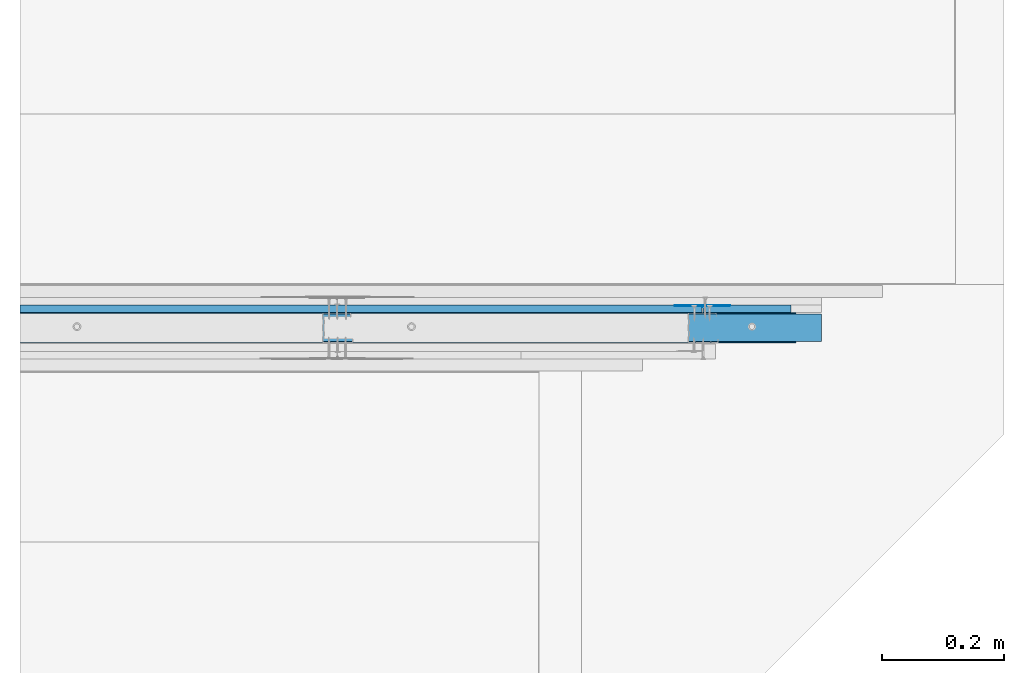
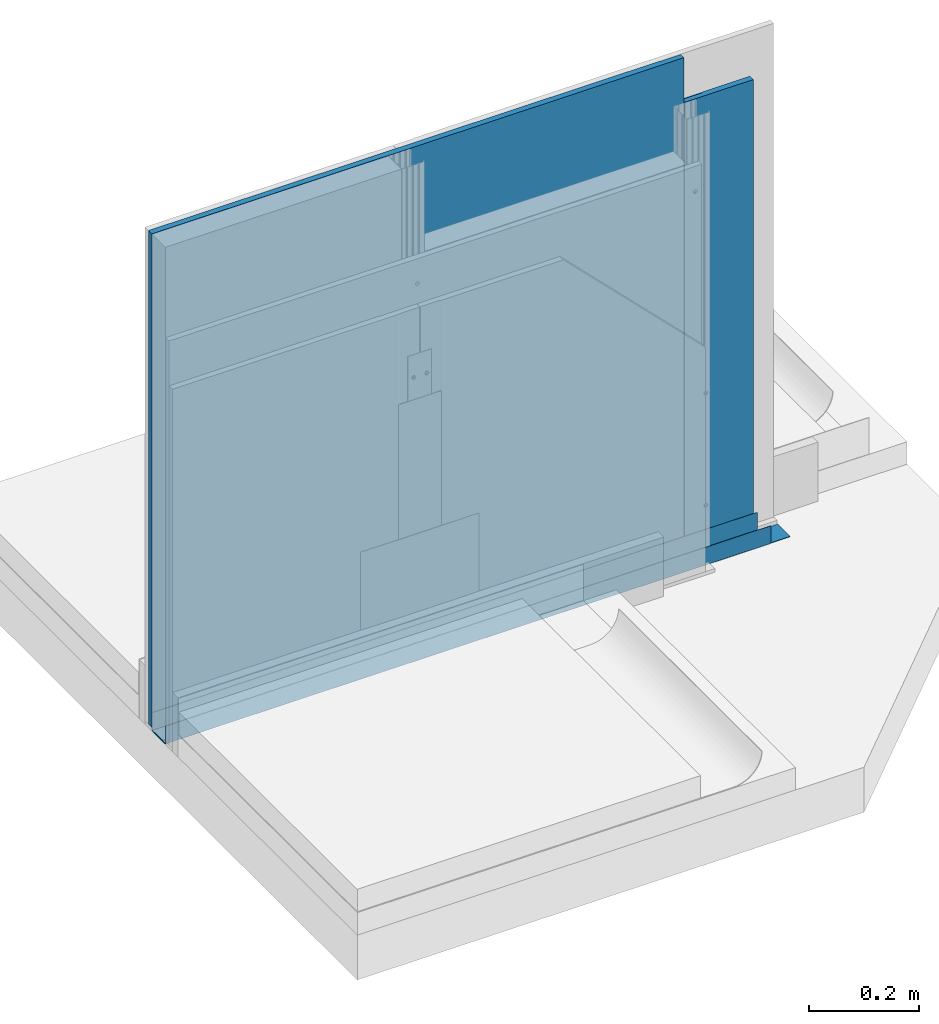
# One storey, part 3 of 37: 5 walls.
"""IFC2X3 building model written with IfcOpenShell, lengths in millimetres."""

import ifcopenshell
import ifcopenshell.guid

model = None  # the IFC model being written
_history = None  # IfcOwnerHistory: only IFC2X3 demands one
_inside = {}  # id of a spatial element -> (the spatial element, [elements in it])
_under = {}  # id of a project, library or spatial element -> (it, [spatial elements below it])
_declared = {}  # id of a project -> (the project, [libraries it declares])
_typed = {}  # id of a type object -> (the type object, [elements of that type])
_made_of = {}  # id of a material, layer set ... -> (it, [elements and type objects made of it])


def new_model(schema):
    """Start an empty IFC model of exactly this schema.

    Asked for "IFC4X3", IfcOpenShell would pick the latest addendum, in which some entities
    have other attributes; the version numbers below select the first issue.
    IFC2X3 requires an IfcOwnerHistory on every rooted entity: one is made here for all.
    """
    global model, _history
    if schema == "IFC4X3":
        model = ifcopenshell.file(schema_version=(4, 3, 0, 0))
    else:
        model = ifcopenshell.file(schema=schema)
    _inside.clear()
    _under.clear()
    _declared.clear()
    _typed.clear()
    _made_of.clear()
    _history = None
    if model.schema == "IFC2X3":
        org = make("IfcOrganization", Name="unknown")
        user = make(
            "IfcPersonAndOrganization",
            ThePerson=make("IfcPerson", FamilyName="unknown"),
            TheOrganization=org,
        )
        app = make(
            "IfcApplication",
            ApplicationDeveloper=org,
            Version="unknown",
            ApplicationFullName="unknown",
            ApplicationIdentifier="unknown",
        )
        _history = make(
            "IfcOwnerHistory",
            OwningUser=user,
            OwningApplication=app,
            ChangeAction="ADDED",
            CreationDate=0,
        )
    return model


def make(cls, **values):
    """One entity of the class cls with the attributes given. An attribute that is None is left unset."""
    return model.create_entity(
        cls, **{name: value for name, value in values.items() if value is not None}
    )


def entity(cls, *values):
    """Any entity or typed value of the class cls, its attributes in the order of the schema. None: left unset."""
    e = model.create_entity(cls)
    for i, value in enumerate(values):
        if value is not None:
            e[i] = value
    return e


def rooted(cls, **values):
    """An entity with a GlobalId (a new one), such as an element, a storey or a relation."""
    return make(cls, GlobalId=ifcopenshell.guid.new(), OwnerHistory=_history, **values)


def si_unit(unit_type, name, prefix=None):
    """IfcSIUnit, for example si_unit("LENGTHUNIT", "METRE", prefix="MILLI")."""
    return make("IfcSIUnit", UnitType=unit_type, Prefix=prefix, Name=name)


def converted_unit(unit_type, name, factor, base, dimensions=None, offset=None):
    """IfcConversionBasedUnit, such as the inch: factor (a typed value) times the base unit."""
    return make(
        "IfcConversionBasedUnit"
        if offset is None
        else "IfcConversionBasedUnitWithOffset",
        ConversionOffset=offset,
        Dimensions=None
        if dimensions is None
        else entity("IfcDimensionalExponents", *dimensions),
        UnitType=unit_type,
        Name=name,
        ConversionFactor=make(
            "IfcMeasureWithUnit", ValueComponent=factor, UnitComponent=base
        ),
    )


def assignment(units):
    """IfcUnitAssignment: the units of a project."""
    return None if units is None else make("IfcUnitAssignment", Units=units)


def point(xyz):
    """IfcCartesianPoint."""
    return None if xyz is None else make("IfcCartesianPoint", Coordinates=xyz)


def direction(xyz):
    """IfcDirection."""
    return None if xyz is None else make("IfcDirection", DirectionRatios=xyz)


def frame(location, z_axis=None, x_axis=None):
    """IfcAxis2Placement3D, a coordinate frame: its origin and axes. An axis left out is left unset."""
    return make(
        "IfcAxis2Placement3D",
        Location=point(location),
        Axis=direction(z_axis),
        RefDirection=direction(x_axis),
    )


def origin():
    """The frame at (0, 0, 0) with its axes left unset."""
    return frame((0.0, 0.0, 0.0))


def origin_with_axes():
    """The frame at (0, 0, 0) with the z axis (0, 0, 1) and the x axis (1, 0, 0) written out."""
    return frame((0.0, 0.0, 0.0), z_axis=(0.0, 0.0, 1.0), x_axis=(1.0, 0.0, 0.0))


def place(relative_to, where):
    """IfcLocalPlacement: puts the frame where relative to a parent placement (None: the world)."""
    return make(
        "IfcLocalPlacement", PlacementRelTo=relative_to, RelativePlacement=where
    )


def context(
    kind, dimensions, precision=None, world=None, true_north=None, identifier=None
):
    """IfcGeometricRepresentationContext, for example the 3D "Model" context."""
    return make(
        "IfcGeometricRepresentationContext",
        ContextIdentifier=identifier,
        ContextType=kind,
        CoordinateSpaceDimension=dimensions,
        Precision=precision,
        WorldCoordinateSystem=world,
        TrueNorth=true_north,
    )


def project(units=None, contexts=None):
    """IfcProject with its units and contexts."""
    return rooted(
        "IfcProject",
        Name="project",
        RepresentationContexts=contexts,
        UnitsInContext=assignment(units),
    )


def spatial(cls, under=None, at=None, **own):
    """A site, building, storey or space (cls), placed at a placement, below another one or the project."""
    s = rooted(cls, ObjectPlacement=at, **own)
    if under is not None:
        _under.setdefault(under.id(), (under, []))[1].append(s)
    return s


def faces_of(points, faces, orient=None, outer=None):
    """IfcFace entities. A face is a list of loops; a loop is a list of indices into points, from 0.

    orient and outer hold one flag for each loop. By default every Orientation is true, the
    first loop of a face is its IfcFaceOuterBound and the others are IfcFaceBound.
    """
    made = []
    for i, loops in enumerate(faces):
        bounds = []
        for j, loop in enumerate(loops):
            is_outer = j == 0 if outer is None else outer[i][j]
            bounds.append(
                make(
                    "IfcFaceOuterBound" if is_outer else "IfcFaceBound",
                    Bound=make("IfcPolyLoop", Polygon=[points[k] for k in loop]),
                    Orientation=True if orient is None else orient[i][j],
                )
            )
        made.append(make("IfcFace", Bounds=bounds))
    return made


def faceted_brep(points, faces, orient=None, outer=None, voids=None):
    """IfcFacetedBrep: a solid bounded by flat faces; with voids (closed shells), ...WithVoids."""
    shared = [point(p) for p in points]
    hull = make("IfcClosedShell", CfsFaces=faces_of(shared, faces, orient, outer))
    if voids is None:
        return make("IfcFacetedBrep", Outer=hull)
    return make(
        "IfcFacetedBrepWithVoids",
        Outer=hull,
        Voids=[
            make(cls, CfsFaces=faces_of(shared, fs, o, b)) for cls, fs, o, b in voids
        ],
    )


def shape(context_of_items, identifier, shape_type, items):
    """IfcShapeRepresentation: the items that make up one representation, for example the "Body"."""
    return make(
        "IfcShapeRepresentation",
        ContextOfItems=context_of_items,
        RepresentationIdentifier=identifier,
        RepresentationType=shape_type,
        Items=items,
    )


def made_of(thing, what):
    """Note that an element or type object is made of a material, layer set ...; save() writes the relation."""
    if what is not None:
        _made_of.setdefault(what.id(), (what, []))[1].append(thing)
    return thing


def element(
    cls,
    number,
    at=None,
    inside=None,
    cuts=None,
    type_object=None,
    material=None,
    context=None,
    identifier="Body",
    shape_type=None,
    held_by="IfcProductDefinitionShape",
    body=None,
    shapes=None,
    **own,
):
    """One element of the class cls, such as IfcWall. Its Tag is "e" and its number.

    at: its placement. inside: the storey or other place that contains it. cuts: it is an
    opening in that element (IfcRelVoidsElement). A single representation is given by context,
    identifier, shape_type and body (its items); several are given by shapes. held_by: the class
    of the entity that holds the representations. save() writes the other relations.
    """
    e = rooted(cls, Tag="e%d" % number, ObjectPlacement=at, **own)
    if body is not None:
        shapes = [shape(context, identifier, shape_type, body)]
    if shapes is not None:
        e.Representation = make(held_by, Representations=shapes)
    if inside is not None:
        _inside.setdefault(inside.id(), (inside, []))[1].append(e)
    if cuts is not None:
        rooted(
            "IfcRelVoidsElement", RelatingBuildingElement=cuts, RelatedOpeningElement=e
        )
    if type_object is not None:
        _typed.setdefault(type_object.id(), (type_object, []))[1].append(e)
    return made_of(e, material)


def aggregate(whole, parts):
    """IfcRelAggregates: a whole, such as a stair, and the parts it consists of."""
    return rooted("IfcRelAggregates", RelatingObject=whole, RelatedObjects=parts)


def save(model, path):
    """Write the relations noted so far, then the file.

    IfcRelAggregates (storeys below a building ...), IfcRelContainedInSpatialStructure (elements
    in a storey), IfcRelDefinesByType, IfcRelAssociatesMaterial and IfcRelDeclares: one each for
    every whole, place, type object, material and project.
    """
    for whole, parts in _under.values():
        aggregate(whole, parts)
    for where, things in _inside.values():
        rooted(
            "IfcRelContainedInSpatialStructure",
            RelatedElements=things,
            RelatingStructure=where,
        )
    for kind, things in _typed.values():
        rooted("IfcRelDefinesByType", RelatedObjects=things, RelatingType=kind)
    for what, things in _made_of.values():
        rooted("IfcRelAssociatesMaterial", RelatedObjects=things, RelatingMaterial=what)
    for by, libraries in _declared.values():
        rooted("IfcRelDeclares", RelatingContext=by, RelatedDefinitions=libraries)
    model.write(path)


model = new_model("IFC2X3")

# Units and contexts
model_context = context("Model", 3, precision=1e-05, world=origin(), true_north=direction((0.0, 1.0, 0.0)))
ifc_project = project(units=[si_unit("LENGTHUNIT", "METRE", prefix="MILLI"), si_unit("AREAUNIT", "SQUARE_METRE"), si_unit("VOLUMEUNIT", "CUBIC_METRE"), converted_unit("PLANEANGLEUNIT", "DEGREE", entity("IfcPlaneAngleMeasure", 0.01745), si_unit("PLANEANGLEUNIT", "RADIAN"), dimensions=[0, 0, 0, 0, 0, 0, 0]), si_unit("SOLIDANGLEUNIT", "STERADIAN"), si_unit("MASSUNIT", "GRAM"), si_unit("TIMEUNIT", "SECOND"), si_unit("THERMODYNAMICTEMPERATUREUNIT", "DEGREE_CELSIUS"), si_unit("LUMINOUSINTENSITYUNIT", "LUMEN")], contexts=[model_context])

# Site, building, storey
site_placement = place(None, origin_with_axes())
site = spatial("IfcSite", under=ifc_project, at=site_placement, Name="Default Site", CompositionType="ELEMENT")
building_placement = place(site_placement, origin_with_axes())
building = spatial("IfcBuilding", under=site, at=building_placement, Name="Default Building", CompositionType="ELEMENT")
storey_placement = place(building_placement, origin_with_axes())
storey = spatial("IfcBuildingStorey", under=building, at=storey_placement, Name="Default Building Storey", CompositionType="ELEMENT", Elevation=0.0)

# Walls
wall_1_placement = place(storey_placement, frame((3984.303078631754, -1356.465798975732, 303.1766678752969), z_axis=(0.0, 0.0, 1.0), x_axis=(1.0, 0.0, 0.0)))
element("IfcWall", 1, at=wall_1_placement, inside=storey, Name="Dedykowana masa szpachlowa Rigips - konstrukcyjna", context=model_context, shape_type="Brep", body=[
    faceted_brep([(-737.4838396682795, 3387.669590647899, 706.8233321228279), (-737.4592163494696, 3387.356721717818, 706.8233321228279), (-737.4345930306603, 3387.669590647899, 706.8233321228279), (-737.3613293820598, 3387.974755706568, 706.8233321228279), (-737.2412293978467, 3388.264702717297, 706.8233321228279), (-737.0772503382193, 3388.532292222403, 706.8233321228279), (-736.8734299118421, 3388.770935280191, 706.8233321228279), (-736.6347868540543, 3388.974755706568, 706.8233321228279), (-736.3671973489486, 3389.138734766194, 706.8233321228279), (-736.0772503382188, 3389.258834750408, 706.8233321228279), (-735.7720852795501, 3389.332098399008, 706.8233321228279), (-735.4592163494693, 3389.356721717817, 706.8233321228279), (-692.4592163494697, 3389.356721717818, 706.8233321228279), (-691.4592163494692, 3390.556721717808, 706.8233321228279), (-782.4592163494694, 3390.556721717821, 706.8233321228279), (-782.4592163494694, 3389.356721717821, 706.8233321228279), (-739.4592163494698, 3389.356721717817, 706.8233321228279), (-739.146347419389, 3389.332098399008, 706.8233321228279), (-738.8411823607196, 3389.258834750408, 706.8233321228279), (-738.5512353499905, 3389.138734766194, 706.8233321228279), (-738.2836458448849, 3388.974755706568, 706.8233321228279), (-738.045002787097, 3388.770935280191, 706.8233321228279), (-737.8411823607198, 3388.532292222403, 706.8233321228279), (-737.6772033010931, 3388.264702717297, 706.8233321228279), (-737.5571033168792, 3387.974755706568, 706.8233321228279), (-691.4592163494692, 3390.556721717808, -293.178249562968), (-692.4592163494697, 3389.356721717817, -293.178249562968), (-735.4592163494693, 3389.356721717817, -293.178249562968), (-735.7720852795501, 3389.332098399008, -293.178249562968), (-736.0772503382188, 3389.258834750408, -293.178249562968), (-736.3671973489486, 3389.138734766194, -293.178249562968), (-736.6347868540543, 3388.974755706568, -293.178249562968), (-736.8734299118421, 3388.77093528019, -293.178249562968), (-737.0772503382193, 3388.532292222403, -293.178249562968), (-737.2412293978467, 3388.264702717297, -293.178249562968), (-737.3613293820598, 3387.974755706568, -293.178249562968), (-737.4345930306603, 3387.669590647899, -293.178249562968), (-737.4592163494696, 3387.356721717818, -293.178249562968), (-737.4838396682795, 3387.669590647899, -293.178249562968), (-737.5571033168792, 3387.974755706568, -293.178249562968), (-737.6772033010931, 3388.264702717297, -293.178249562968), (-737.8411823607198, 3388.532292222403, -293.178249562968), (-738.045002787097, 3388.77093528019, -293.178249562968), (-738.2836458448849, 3388.974755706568, -293.178249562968), (-738.5512353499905, 3389.138734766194, -293.178249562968), (-738.8411823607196, 3389.258834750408, -293.178249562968), (-739.146347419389, 3389.332098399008, -293.178249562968), (-739.4592163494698, 3389.356721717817, -293.178249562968), (-782.4592163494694, 3389.356721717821, -293.178249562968), (-782.4592163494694, 3390.556721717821, -293.178249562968)], [[[0, 1, 2, 3, 4, 5, 6, 7, 8, 9, 10, 11, 12, 13, 14, 15, 16, 17, 18, 19, 20, 21, 22, 23, 24]], [[25, 26, 27, 28, 29, 30, 31, 32, 33, 34, 35, 36, 37, 38, 39, 40, 41, 42, 43, 44, 45, 46, 47, 48, 49]], [[26, 12, 11, 27]], [[10, 9, 29, 28]], [[28, 27, 11, 10]], [[8, 30, 29, 9]], [[7, 6, 32, 31]], [[31, 30, 8, 7]], [[5, 4, 34, 33]], [[33, 32, 6, 5]], [[3, 35, 34, 4]], [[2, 1, 37, 36]], [[36, 35, 3, 2]], [[0, 24, 39, 38]], [[38, 37, 1, 0]], [[23, 40, 39, 24]], [[22, 21, 42, 41]], [[41, 40, 23, 22]], [[20, 19, 44, 43]], [[43, 42, 21, 20]], [[18, 45, 44, 19]], [[17, 16, 47, 46]], [[46, 45, 18, 17]], [[47, 16, 15, 48]], [[48, 15, 14, 49]], [[49, 14, 13, 25]], [[25, 13, 12, 26]]]),
])
wall_2_placement = place(storey_placement, frame((3247.843862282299, 2022.140922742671, 1287.777728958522), z_axis=(0.0, 0.0, 1.0), x_axis=(1.0, 0.0, 0.0)))
element("IfcWall", 2, at=wall_2_placement, inside=storey, Name="Płyta gipsowo-kartonowa RIGIPS PRO (4PRO™)", context=model_context, shape_type="Brep", body=[
    faceted_brep([(145.1967559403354, 12.49999999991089, -277.7777289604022), (145.1967559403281, -9.059988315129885e-11, -277.7777289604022), (145.1967559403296, -9.023892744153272e-11, -1277.779310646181), (145.1967559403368, 12.49999999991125, -1277.779310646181), (0.0, 0.0, -277.7777289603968), (44.99999999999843, 12.50000000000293, -277.7777289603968), (40.99999999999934, 11.50000000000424, -277.7777289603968), (0.9999999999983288, 11.5000000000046, -277.7777289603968), (0.7411809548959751, 11.46592582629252, -277.7777289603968), (0.4999999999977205, 11.3660254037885, -277.7777289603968), (0.2928932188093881, 11.20710678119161, -277.7777289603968), (0.1339745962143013, 11.00000000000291, -277.7777289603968), (0.03407417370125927, 10.7588190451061, -277.7777289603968), (-2.887645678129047e-12, 10.50000000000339, -277.7777289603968), (44.99999999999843, 12.50000000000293, -1277.779310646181), (40.99999999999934, 11.50000000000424, -1277.779310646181), (0.9999999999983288, 11.5000000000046, -1277.779310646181), (0.7411809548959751, 11.46592582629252, -1277.779310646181), (0.4999999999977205, 11.3660254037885, -1277.779310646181), (0.2928932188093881, 11.20710678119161, -1277.779310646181), (0.1339745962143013, 11.00000000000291, -1277.779310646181), (0.03407417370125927, 10.7588190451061, -1277.779310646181), (-2.887645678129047e-12, 10.50000000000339, -1277.779310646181), (0.0, 0.0, -1277.779310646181)], [[[0, 1, 2, 3]], [[4, 1, 0, 5, 6, 7, 8, 9, 10, 11, 12, 13]], [[0, 3, 14, 5]], [[6, 5, 14, 15]], [[7, 6, 15, 16]], [[8, 7, 16, 17]], [[9, 8, 17, 18]], [[10, 9, 18, 19]], [[11, 10, 19, 20]], [[12, 11, 20, 21]], [[13, 12, 21, 22]], [[4, 13, 22, 23]], [[23, 2, 1, 4]], [[14, 3, 2, 23, 22, 21, 20, 19, 18, 17, 16, 15]]]),
])
wall_3_placement = place(storey_placement, frame((3207.215400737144, 5452.424146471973, 8.39039522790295), z_axis=(6.446348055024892e-14, -6.858158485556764e-13, 1.0), x_axis=(1.0, -1.14833748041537e-16, -9.00774876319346e-14)))
element("IfcWall", 3, at=wall_3_placement, inside=storey, Name="Profil RIGIPS UW50 ULTRASTIL®", context=model_context, shape_type="Brep", body=[
    faceted_brep([(-943.956929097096, -3470.476261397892, -4.901701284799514), (-943.956929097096, -3470.287116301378, -4.783410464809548), (-943.956929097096, -3470.128902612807, -4.626130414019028), (-1082.190267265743, -3470.128902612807, -4.626130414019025), (-1082.190267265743, -3470.476261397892, -4.901701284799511), (-943.956929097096, -3470.063927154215, -4.535249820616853), (-943.956929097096, -3470.009494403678, -4.437688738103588), (-1082.190267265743, -3470.009494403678, -4.437688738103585), (-943.956929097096, -3440.279331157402, -4.783410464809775), (-943.956929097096, -3440.090186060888, -4.901701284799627), (-943.956929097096, -3439.87952304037, -4.97511570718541), (-1082.190267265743, -3439.87952304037, -4.975115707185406), (-1082.190267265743, -3440.279331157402, -4.783410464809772), (-943.9569290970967, -3440.819375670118, -2.866589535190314), (-943.9569290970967, -3441.008520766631, -2.748298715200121), (-943.9569290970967, -3441.219183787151, -2.674884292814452), (-1082.190267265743, -3441.219183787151, -2.67488429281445), (-1082.190267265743, -3440.819375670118, -2.866589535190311), (-943.9569290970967, -3469.55792669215, -2.74829871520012), (-943.9569290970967, -3469.747071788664, -2.866589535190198), (-943.9569290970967, -3469.905285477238, -3.023869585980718), (-1082.190267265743, -3469.905285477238, -3.023869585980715), (-1082.190267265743, -3469.55792669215, -2.748298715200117), (-1082.190267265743, -3479.733223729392, 35.00000000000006), (-1082.190267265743, -3480.283223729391, 35.00000000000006), (-1082.190267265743, -3480.283223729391, -4.199999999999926), (-1082.190267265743, -3480.273374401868, -4.325147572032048), (-1082.190267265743, -3480.244068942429, -4.447213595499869), (-1082.190267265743, -3480.196028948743, -4.563192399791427), (-1082.190267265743, -3480.130437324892, -4.670228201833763), (-1082.190267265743, -3480.048909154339, -4.765685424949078), (-1082.190267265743, -3479.953451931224, -4.847213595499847), (-1082.190267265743, -3479.846416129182, -4.912805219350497), (-1082.190267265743, -3479.73043732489, -4.960845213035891), (-1082.190267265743, -3479.608371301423, -4.99015067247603), (-1082.190267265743, -3479.483223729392, -4.999999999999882), (-1082.190267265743, -3470.908620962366, -4.999999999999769), (-1082.190267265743, -3470.686924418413, -4.975115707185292), (-1082.190267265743, -3469.680725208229, -3.762311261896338), (-1082.190267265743, -3469.561316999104, -3.573869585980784), (-1082.190267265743, -3469.403103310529, -3.416589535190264), (-1082.190267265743, -3469.213958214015, -3.298298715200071), (-1082.190267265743, -3469.003295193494, -3.224884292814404), (-1082.190267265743, -3468.781598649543, -3.199999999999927), (-1082.190267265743, -3441.78484880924, -3.199999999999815), (-1082.190267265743, -3441.563152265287, -3.224884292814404), (-1082.190267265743, -3441.352489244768, -3.298298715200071), (-1082.190267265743, -3441.163344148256, -3.416589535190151), (-1082.190267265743, -3441.005130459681, -3.573869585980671), (-1082.190267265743, -3440.885722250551, -3.762311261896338), (-1082.190267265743, -3440.556953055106, -4.437688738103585), (-1082.190267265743, -3440.437544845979, -4.626130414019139), (-1082.190267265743, -3439.657826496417, -4.999999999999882), (-1082.190267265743, -3431.083223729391, -4.999999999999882), (-1082.190267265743, -3430.95807615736, -4.990150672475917), (-1082.190267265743, -3430.83601013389, -4.960845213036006), (-1082.190267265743, -3430.720031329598, -4.912805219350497), (-1082.190267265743, -3430.612995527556, -4.847213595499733), (-1082.190267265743, -3430.51753830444, -4.765685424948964), (-1082.190267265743, -3430.436010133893, -4.670228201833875), (-1082.190267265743, -3430.370418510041, -4.563192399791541), (-1082.190267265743, -3430.322378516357, -4.447213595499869), (-1082.190267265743, -3430.293073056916, -4.325147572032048), (-1082.190267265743, -3430.283223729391, -4.199999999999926), (-1082.190267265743, -3430.283223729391, 35.00000000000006), (-1082.190267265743, -3430.833223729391, 35.00000000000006), (-1082.190267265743, -3430.833223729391, -4.199999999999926), (-1082.190267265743, -3430.836301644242, -4.23910861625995), (-1082.190267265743, -3430.845459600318, -4.27725424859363), (-1082.190267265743, -3430.860472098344, -4.313497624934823), (-1082.190267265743, -3430.880969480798, -4.346946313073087), (-1082.190267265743, -3430.906447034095, -4.376776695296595), (-1082.190267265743, -3430.936277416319, -4.402254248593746), (-1082.190267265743, -3430.969726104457, -4.422751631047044), (-1082.190267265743, -3431.005969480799, -4.437764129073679), (-1082.190267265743, -3431.044115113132, -4.44692208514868), (-1082.190267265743, -3431.083223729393, -4.449999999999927), (-1082.190267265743, -3439.313858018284, -4.45000000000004), (-1082.190267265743, -3439.535554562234, -4.425115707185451), (-1082.190267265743, -3439.746217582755, -4.351701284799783), (-1082.190267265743, -3439.935362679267, -4.233410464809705), (-1082.190267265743, -3440.093576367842, -4.076130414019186), (-1082.190267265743, -3440.212984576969, -3.887688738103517), (-1082.190267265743, -3440.541753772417, -3.212311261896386), (-1082.190267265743, -3440.661161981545, -3.02386958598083), (-1082.190267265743, -3441.440880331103, -2.649999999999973), (-1082.190267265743, -3469.125567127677, -2.649999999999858), (-1082.190267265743, -3469.347263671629, -2.674884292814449), (-1082.190267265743, -3470.024693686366, -3.212311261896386), (-1082.190267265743, -3470.353462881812, -3.887688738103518), (-1082.190267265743, -3470.472871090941, -4.076130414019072), (-1082.190267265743, -3470.631084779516, -4.233410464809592), (-1082.190267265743, -3470.820229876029, -4.351701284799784), (-1082.190267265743, -3471.030892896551, -4.425115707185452), (-1082.190267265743, -3471.252589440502, -4.449999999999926), (-1082.190267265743, -3479.483223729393, -4.449999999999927), (-1082.190267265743, -3479.522332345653, -4.446922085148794), (-1082.190267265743, -3479.560477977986, -4.437764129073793), (-1082.190267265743, -3479.596721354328, -4.422751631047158), (-1082.190267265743, -3479.630170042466, -4.402254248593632), (-1082.190267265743, -3479.660000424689, -4.376776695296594), (-1082.190267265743, -3479.685477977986, -4.346946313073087), (-1082.190267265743, -3479.705975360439, -4.313497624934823), (-1082.190267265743, -3479.720987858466, -4.27725424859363), (-1082.190267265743, -3479.730145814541, -4.23910861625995), (-1082.190267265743, -3479.733223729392, -4.199999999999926), (193.5273232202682, -3480.283223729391, -4.200000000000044), (193.5273232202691, -3480.283223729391, 35.0), (193.5273232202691, -3479.733223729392, 35.0), (193.5273232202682, -3479.733223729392, -4.200000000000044), (193.5273232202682, -3479.730145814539, -4.239108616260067), (193.5273232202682, -3479.720987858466, -4.277254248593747), (193.5273232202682, -3479.705975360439, -4.313497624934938), (193.5273232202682, -3479.685477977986, -4.346946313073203), (193.5273232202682, -3479.660000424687, -4.376776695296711), (193.5273232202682, -3479.630170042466, -4.402254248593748), (193.5273232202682, -3479.596721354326, -4.422751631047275), (193.5273232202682, -3479.560477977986, -4.43776412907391), (193.5273232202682, -3479.522332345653, -4.446922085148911), (193.5273232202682, -3479.483223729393, -4.450000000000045), (193.5273232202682, -3471.252589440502, -4.450000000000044), (193.5273232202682, -3471.030892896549, -4.425115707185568), (193.5273232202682, -3470.820229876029, -4.3517012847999), (193.5273232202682, -3470.631084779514, -4.233410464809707), (193.5273232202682, -3470.472871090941, -4.076130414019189), (193.5273232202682, -3470.353462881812, -3.887688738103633), (193.5273232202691, -3470.024693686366, -3.212311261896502), (193.5273232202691, -3469.905285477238, -3.023869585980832), (193.5273232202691, -3469.747071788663, -2.866589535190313), (193.5273232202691, -3469.55792669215, -2.748298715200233), (193.5273232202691, -3469.347263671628, -2.674884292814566), (193.5273232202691, -3469.125567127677, -2.649999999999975), (193.5273232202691, -3441.440880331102, -2.650000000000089), (193.5273232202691, -3441.219183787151, -2.674884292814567), (193.5273232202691, -3441.008520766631, -2.748298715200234), (193.5273232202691, -3440.819375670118, -2.866589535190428), (193.5273232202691, -3440.661161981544, -3.023869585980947), (193.5273232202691, -3440.541753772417, -3.212311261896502), (193.5273232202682, -3440.212984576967, -3.887688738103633), (193.5273232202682, -3440.093576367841, -4.076130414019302), (193.5273232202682, -3439.935362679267, -4.233410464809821), (193.5273232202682, -3439.746217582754, -4.3517012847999), (193.5273232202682, -3439.535554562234, -4.425115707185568), (193.5273232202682, -3439.313858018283, -4.450000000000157), (193.5273232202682, -3431.083223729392, -4.450000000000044), (193.5273232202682, -3431.044115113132, -4.446922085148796), (193.5273232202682, -3431.005969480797, -4.437764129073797), (193.5273232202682, -3430.969726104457, -4.422751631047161), (193.5273232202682, -3430.936277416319, -4.402254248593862), (193.5273232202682, -3430.906447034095, -4.376776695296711), (193.5273232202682, -3430.880969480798, -4.346946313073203), (193.5273232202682, -3430.860472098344, -4.313497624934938), (193.5273232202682, -3430.845459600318, -4.277254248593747), (193.5273232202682, -3430.836301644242, -4.239108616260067), (193.5273232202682, -3430.833223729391, -4.200000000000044), (193.5273232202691, -3430.833223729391, 35.0), (193.5273232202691, -3430.283223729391, 35.0), (193.5273232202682, -3430.283223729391, -4.200000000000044), (193.5273232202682, -3430.293073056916, -4.325147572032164), (193.5273232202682, -3430.322378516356, -4.447213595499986), (193.5273232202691, -3430.370418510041, -4.563192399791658), (193.5273232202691, -3430.436010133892, -4.670228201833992), (193.5273232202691, -3430.51753830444, -4.765685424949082), (193.5273232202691, -3430.612995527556, -4.84721359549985), (193.5273232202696, -3430.720031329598, -4.912805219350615), (193.5273232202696, -3430.83601013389, -4.960845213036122), (193.5273232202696, -3430.958076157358, -4.990150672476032), (193.5273232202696, -3431.083223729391, -4.999999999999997), (193.5273232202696, -3439.657826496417, -4.999999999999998), (193.5273232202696, -3439.879523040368, -4.975115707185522), (193.5273232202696, -3440.090186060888, -4.901701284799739), (193.5273232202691, -3440.279331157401, -4.783410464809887), (193.5273232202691, -3440.437544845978, -4.626130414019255), (193.5273232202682, -3440.556953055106, -4.437688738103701), (193.5273232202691, -3440.88572225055, -3.762311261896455), (193.5273232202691, -3441.005130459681, -3.573869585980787), (193.5273232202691, -3441.163344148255, -3.416589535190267), (193.5273232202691, -3441.352489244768, -3.298298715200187), (193.5273232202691, -3441.563152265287, -3.22488429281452), (193.5273232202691, -3441.78484880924, -3.199999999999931), (193.5273232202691, -3468.781598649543, -3.200000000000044), (193.5273232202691, -3469.003295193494, -3.22488429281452), (193.5273232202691, -3469.213958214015, -3.298298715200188), (193.5273232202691, -3469.403103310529, -3.416589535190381), (193.5273232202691, -3469.561316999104, -3.5738695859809), (193.5273232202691, -3469.680725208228, -3.762311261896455), (193.5273232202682, -3470.009494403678, -4.437688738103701), (193.5273232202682, -3470.063927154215, -4.535249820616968), (193.5273232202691, -3470.128902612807, -4.626130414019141), (193.5273232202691, -3470.287116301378, -4.783410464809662), (193.5273232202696, -3470.476261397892, -4.901701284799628), (193.5273232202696, -3470.686924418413, -4.975115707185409), (193.5273232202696, -3470.908620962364, -4.999999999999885), (193.5273232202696, -3479.483223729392, -4.999999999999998), (193.5273232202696, -3479.608371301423, -4.990150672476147), (193.5273232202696, -3479.730437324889, -4.960845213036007), (193.5273232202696, -3479.846416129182, -4.912805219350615), (193.5273232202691, -3479.953451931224, -4.847213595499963), (193.5273232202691, -3480.048909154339, -4.765685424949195), (193.5273232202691, -3480.130437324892, -4.670228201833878), (193.5273232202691, -3480.196028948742, -4.563192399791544), (193.5273232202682, -3480.244068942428, -4.447213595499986), (193.5273232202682, -3480.273374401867, -4.325147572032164)], [[[0, 1, 2, 3, 4]], [[2, 5, 6, 7, 3]], [[8, 9, 10, 11, 12]], [[13, 14, 15, 16, 17]], [[18, 19, 20, 21, 22]], [[23, 24, 25, 26, 27, 28, 29, 30, 31, 32, 33, 34, 35, 36, 37, 4, 3, 7, 38, 39, 40, 41, 42, 43, 44, 45, 46, 47, 48, 49, 50, 51, 12, 11, 52, 53, 54, 55, 56, 57, 58, 59, 60, 61, 62, 63, 64, 65, 66, 67, 68, 69, 70, 71, 72, 73, 74, 75, 76, 77, 78, 79, 80, 81, 82, 83, 84, 17, 16, 85, 86, 87, 22, 21, 88, 89, 90, 91, 92, 93, 94, 95, 96, 97, 98, 99, 100, 101, 102, 103, 104, 105]], [[106, 107, 108, 109, 110, 111, 112, 113, 114, 115, 116, 117, 118, 119, 120, 121, 122, 123, 124, 125, 126, 127, 128, 129, 130, 131, 132, 133, 134, 135, 136, 137, 138, 139, 140, 141, 142, 143, 144, 145, 146, 147, 148, 149, 150, 151, 152, 153, 154, 155, 156, 157, 158, 159, 160, 161, 162, 163, 164, 165, 166, 167, 168, 169, 170, 171, 172, 173, 174, 175, 176, 177, 178, 179, 180, 181, 182, 183, 184, 185, 186, 187, 188, 189, 190, 191, 192, 193, 194, 195, 196, 197, 198, 199, 200, 201, 202]], [[63, 157, 156, 64]], [[64, 156, 155, 65]], [[65, 155, 154, 66]], [[144, 76, 75, 145]], [[74, 146, 145, 75]], [[73, 147, 146, 74]], [[147, 73, 72, 148]], [[71, 149, 148, 72]], [[149, 71, 70, 150]], [[69, 151, 150, 70]], [[68, 152, 151, 69]], [[152, 68, 67, 153]], [[66, 154, 153, 67]], [[76, 144, 143, 77]], [[81, 139, 138, 82]], [[80, 140, 139, 81]], [[79, 141, 140, 80]], [[143, 142, 78, 77]], [[78, 142, 141, 79]], [[82, 138, 137, 83]], [[15, 133, 132, 85, 16]], [[14, 134, 133, 15]], [[13, 135, 134, 14]], [[84, 136, 135, 13, 17]], [[137, 136, 84, 83]], [[85, 132, 131, 86]], [[20, 127, 126, 88, 21]], [[19, 128, 127, 20]], [[18, 129, 128, 19]], [[87, 130, 129, 18, 22]], [[131, 130, 87, 86]], [[88, 126, 125, 89]], [[93, 121, 120, 94]], [[92, 122, 121, 93]], [[91, 123, 122, 92]], [[125, 124, 90, 89]], [[90, 124, 123, 91]], [[94, 120, 119, 95]], [[109, 105, 104, 110]], [[103, 111, 110, 104]], [[102, 112, 111, 103]], [[112, 102, 101, 113]], [[100, 114, 113, 101]], [[114, 100, 99, 115]], [[98, 116, 115, 99]], [[97, 117, 116, 98]], [[117, 97, 96, 118]], [[95, 119, 118, 96]], [[105, 109, 108, 23]], [[23, 108, 107, 24]], [[24, 107, 106, 25]], [[33, 195, 194, 34]], [[194, 193, 35, 34]], [[32, 196, 195, 33]], [[30, 198, 197, 31]], [[197, 196, 32, 31]], [[28, 200, 199, 29]], [[199, 198, 30, 29]], [[27, 201, 200, 28]], [[25, 106, 202, 26]], [[202, 201, 27, 26]], [[35, 193, 192, 36]], [[5, 2, 188, 187]], [[187, 186, 6, 5]], [[1, 189, 188, 2]], [[0, 190, 189, 1]], [[37, 191, 190, 0, 4]], [[192, 191, 37, 36]], [[6, 186, 185, 38, 7]], [[42, 181, 180, 43]], [[41, 182, 181, 42]], [[40, 183, 182, 41]], [[185, 184, 39, 38]], [[39, 184, 183, 40]], [[43, 180, 179, 44]], [[48, 175, 174, 49]], [[47, 176, 175, 48]], [[46, 177, 176, 47]], [[179, 178, 45, 44]], [[45, 178, 177, 46]], [[49, 174, 173, 50]], [[10, 169, 168, 52, 11]], [[9, 170, 169, 10]], [[8, 171, 170, 9]], [[51, 172, 171, 8, 12]], [[173, 172, 51, 50]], [[52, 168, 167, 53]], [[61, 159, 158, 62]], [[158, 157, 63, 62]], [[60, 160, 159, 61]], [[58, 162, 161, 59]], [[161, 160, 60, 59]], [[56, 164, 163, 57]], [[163, 162, 58, 57]], [[55, 165, 164, 56]], [[53, 167, 166, 54]], [[166, 165, 55, 54]]]),
])
wall_4_placement = place(storey_placement, frame((3246.843862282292, 2022.140922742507, 1415.55545791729), z_axis=(0.0, 0.0, 1.0), x_axis=(-1.0, -8.049116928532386e-16, 0.0)))
element("IfcWall", 4, at=wall_4_placement, inside=storey, Name="Płyta gipsowo-kartonowa RIGIPS PRO (4PRO™)", context=model_context, shape_type="Brep", body=[
    faceted_brep([(1121.818728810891, -12.50000000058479, -305.5554579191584), (1121.818728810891, 3.609557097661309e-13, -305.5554579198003), (1121.818728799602, -3.495134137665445e-09, -1405.557039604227), (1121.818728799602, -12.50000000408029, -1405.557039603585), (44.99999999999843, -12.50000000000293, -305.5554579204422), (44.99999999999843, -12.50000000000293, -1405.557039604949), (40.99999999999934, -11.50000000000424, -305.5554579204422), (40.99999999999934, -11.50000000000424, -1405.557039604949), (0.9999999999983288, -11.5000000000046, -305.5554579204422), (0.9999999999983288, -11.5000000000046, -1405.557039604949), (0.7411809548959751, -11.46592582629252, -305.5554579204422), (0.7411809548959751, -11.46592582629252, -1405.557039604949), (0.4999999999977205, -11.3660254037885, -305.5554579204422), (0.4999999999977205, -11.3660254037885, -1405.557039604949), (0.29289321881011, -11.20710678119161, -305.5554579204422), (0.29289321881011, -11.20710678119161, -1405.557039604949), (0.1339745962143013, -11.00000000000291, -305.5554579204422), (0.1339745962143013, -11.00000000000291, -1405.557039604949), (0.03407417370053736, -10.7588190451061, -305.5554579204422), (0.03407417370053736, -10.7588190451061, -1405.557039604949), (-2.887645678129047e-12, -10.50000000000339, -305.5554579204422), (-2.887645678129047e-12, -10.50000000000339, -1405.557039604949), (0.0, 0.0, -305.5554579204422), (0.0, 0.0, -1405.557039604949)], [[[0, 1, 2, 3]], [[4, 0, 3, 5]], [[6, 4, 5, 7]], [[8, 6, 7, 9]], [[10, 8, 9, 11]], [[12, 10, 11, 13]], [[14, 12, 13, 15]], [[16, 14, 15, 17]], [[18, 16, 17, 19]], [[20, 18, 19, 21]], [[22, 20, 21, 23]], [[1, 22, 23, 2]], [[2, 23, 21, 19, 17, 15, 13, 11, 9, 7, 5, 3]], [[0, 4, 6, 8, 10, 12, 14, 16, 18, 20, 22, 1]]]),
])
wall_5_placement = place(storey_placement, frame((3247.741854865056, 5452.424146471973, 8.390395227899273), z_axis=(6.44634805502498e-14, -6.858158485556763e-13, 1.0), x_axis=(1.0, -1.14833748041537e-16, -9.007748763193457e-14)))
element("IfcWall", 5, at=wall_5_placement, inside=storey, Name="Taśma uszczelniająca piankowa RIGIPS", context=model_context, shape_type="Brep", body=[
    faceted_brep([(-1122.716721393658, -3477.783223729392, -5.000000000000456), (-1122.716721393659, -3477.862841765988, -6.00636944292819), (-1122.716721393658, -3432.691889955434, -5.864971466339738), (-1122.716721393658, -3432.783223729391, -5.000000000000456), (195.2987633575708, -3477.862841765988, -6.006369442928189), (195.2987633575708, -3477.783223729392, -5.000000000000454), (195.2987633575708, -3432.783223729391, -5.000000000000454), (195.2987633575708, -3432.691889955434, -5.864971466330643)], [[[0, 1, 2, 3]], [[4, 5, 6, 7]], [[5, 0, 3, 6]], [[6, 3, 2, 7]], [[7, 2, 1, 4]], [[4, 1, 0, 5]]]),
])

save(model, "model.ifc")
